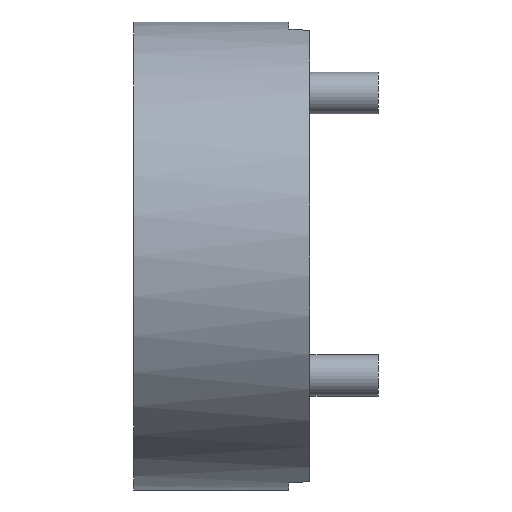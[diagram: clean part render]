
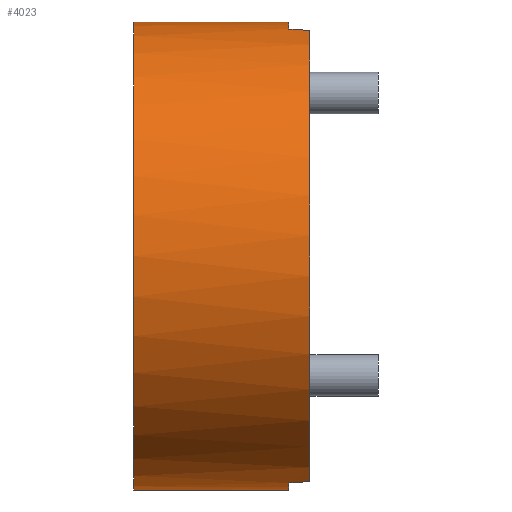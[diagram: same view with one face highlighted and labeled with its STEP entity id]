
A CAD part, left-side view. The second image highlights one B-rep face of the part: STEP entity #4023.
In plain terms, the highlighted cylindrical face has radius 14.287 mm (diameter 28.575 mm), a partial arc.
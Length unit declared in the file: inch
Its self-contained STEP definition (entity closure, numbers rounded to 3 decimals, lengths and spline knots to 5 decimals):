
#309 = CARTESIAN_POINT ( 'NONE',  ( -0.14555, -0.19489, 0.54336 ) ) ;
#510 = CARTESIAN_POINT ( 'NONE',  ( -0.14555, -0.19489, -0.54336 ) ) ;
#726 = ORIENTED_EDGE ( 'NONE', *, *, #7447, .F. ) ;
#1227 = CARTESIAN_POINT ( 'NONE',  ( 0., -0.1615, 0. ) ) ;
#1247 = EDGE_CURVE ( 'NONE', #5007, #6609, #3333, .T. ) ;
#1372 = CARTESIAN_POINT ( 'NONE',  ( -0.15, -0.2115, -0.54213 ) ) ;
#1388 = CARTESIAN_POINT ( 'NONE',  ( -0.14108, -0.17822, -0.54454 ) ) ;
#1587 = DIRECTION ( 'NONE',  ( 0., 0., 1. ) ) ;
#1659 = DIRECTION ( 'NONE',  ( 0., 1., 0. ) ) ;
#1840 = CARTESIAN_POINT ( 'NONE',  ( 0., -0.1615, 0. ) ) ;
#1872 = DIRECTION ( 'NONE',  ( 0., 0., 1. ) ) ;
#1946 = DIRECTION ( 'NONE',  ( 0., 1., 0. ) ) ;
#2090 = EDGE_CURVE ( 'NONE', #5894, #5970, #6423, .T. ) ;
#2516 = VECTOR ( 'NONE', #4188, 39.37008 ) ;
#2606 = CYLINDRICAL_SURFACE ( 'NONE', #3238, 0.5625 ) ;
#2621 = LINE ( 'NONE', #4838, #4078 ) ;
#2630 = ORIENTED_EDGE ( 'NONE', *, *, #4594, .T. ) ;
#2949 = ORIENTED_EDGE ( 'NONE', *, *, #7409, .T. ) ;
#3008 = EDGE_CURVE ( 'NONE', #4036, #5079, #8482, .T. ) ;
#3128 = CARTESIAN_POINT ( 'NONE',  ( -0.14108, -0.17822, 0.54454 ) ) ;
#3238 = AXIS2_PLACEMENT_3D ( 'NONE', #5503, #6852, #6946 ) ;
#3333 = CIRCLE ( 'NONE', #5380, 0.5625 ) ;
#3404 = DIRECTION ( 'NONE',  ( 0., 1., 0. ) ) ;
#3424 = CARTESIAN_POINT ( 'NONE',  ( -0.15, -0.2115, -0.54213 ) ) ;
#3530 = EDGE_CURVE ( 'NONE', #4205, #5007, #6767, .T. ) ;
#3563 = CIRCLE ( 'NONE', #5164, 0.5625 ) ;
#3733 = ORIENTED_EDGE ( 'NONE', *, *, #1247, .T. ) ;
#3795 = CARTESIAN_POINT ( 'NONE',  ( 0., 0.2115, -0.5625 ) ) ;
#3945 = EDGE_LOOP ( 'NONE', ( #726, #6273, #2630, #5618, #5073, #3733, #2949, #5208 ) ) ;
#4023 = ADVANCED_FACE ( 'NONE', ( #4868 ), #2606, .T. ) ;
#4026 = CARTESIAN_POINT ( 'NONE',  ( 0., 0.2115, 0.5625 ) ) ;
#4036 = VERTEX_POINT ( 'NONE', #9063 ) ;
#4078 = VECTOR ( 'NONE', #8344, 39.37008 ) ;
#4188 = DIRECTION ( 'NONE',  ( 0., -1., 0. ) ) ;
#4205 = VERTEX_POINT ( 'NONE', #7258 ) ;
#4594 = EDGE_CURVE ( 'NONE', #5894, #6407, #2621, .T. ) ;
#4610 = DIRECTION ( 'NONE',  ( 0., 0., 1. ) ) ;
#4691 = LINE ( 'NONE', #4780, #2516 ) ;
#4780 = CARTESIAN_POINT ( 'NONE',  ( 0., 0.2115, 0.5625 ) ) ;
#4838 = CARTESIAN_POINT ( 'NONE',  ( 0., 0.2115, -0.5625 ) ) ;
#4868 = FACE_OUTER_BOUND ( 'NONE', #3945, .T. ) ;
#5007 = VERTEX_POINT ( 'NONE', #1372 ) ;
#5073 = ORIENTED_EDGE ( 'NONE', *, *, #3530, .T. ) ;
#5079 = VERTEX_POINT ( 'NONE', #7737 ) ;
#5085 = DIRECTION ( 'NONE',  ( 0., 1., 0. ) ) ;
#5164 = AXIS2_PLACEMENT_3D ( 'NONE', #1227, #3404, #1872 ) ;
#5208 = ORIENTED_EDGE ( 'NONE', *, *, #3008, .T. ) ;
#5380 = AXIS2_PLACEMENT_3D ( 'NONE', #7489, #1946, #5444 ) ;
#5444 = DIRECTION ( 'NONE',  ( 0., 0., 1. ) ) ;
#5503 = CARTESIAN_POINT ( 'NONE',  ( 0., 0.2115, 0. ) ) ;
#5618 = ORIENTED_EDGE ( 'NONE', *, *, #7519, .T. ) ;
#5784 = CARTESIAN_POINT ( 'NONE',  ( 0., 0.2115, 0. ) ) ;
#5874 =( BOUNDED_CURVE ( )  B_SPLINE_CURVE ( 3, ( #6633, #309, #3128, #5934 ),
 .UNSPECIFIED., .F., .F. ) 
 B_SPLINE_CURVE_WITH_KNOTS ( ( 4, 4 ),
 ( 1.30086, 1.32549 ),
 .UNSPECIFIED. ) 
 CURVE ( )  GEOMETRIC_REPRESENTATION_ITEM ( )  RATIONAL_B_SPLINE_CURVE ( ( 1., 1., 1., 1. ) ) 
 REPRESENTATION_ITEM ( '' )  );
#5894 = VERTEX_POINT ( 'NONE', #3795 ) ;
#5934 = CARTESIAN_POINT ( 'NONE',  ( -0.1366, -0.1615, 0.54566 ) ) ;
#5970 = VERTEX_POINT ( 'NONE', #4026 ) ;
#6120 = AXIS2_PLACEMENT_3D ( 'NONE', #1840, #1659, #4610 ) ;
#6273 = ORIENTED_EDGE ( 'NONE', *, *, #2090, .F. ) ;
#6407 = VERTEX_POINT ( 'NONE', #8872 ) ;
#6423 = CIRCLE ( 'NONE', #8037, 0.5625 ) ;
#6609 = VERTEX_POINT ( 'NONE', #8727 ) ;
#6633 = CARTESIAN_POINT ( 'NONE',  ( -0.15, -0.2115, 0.54213 ) ) ;
#6767 =( BOUNDED_CURVE ( )  B_SPLINE_CURVE ( 3, ( #8260, #1388, #510, #3424 ),
 .UNSPECIFIED., .F., .T. ) 
 B_SPLINE_CURVE_WITH_KNOTS ( ( 4, 4 ),
 ( 4.95769, 4.98232 ),
 .UNSPECIFIED. ) 
 CURVE ( )  GEOMETRIC_REPRESENTATION_ITEM ( )  RATIONAL_B_SPLINE_CURVE ( ( 1., 1., 1., 1. ) ) 
 REPRESENTATION_ITEM ( '' )  );
#6852 = DIRECTION ( 'NONE',  ( 0., -1., 0. ) ) ;
#6946 = DIRECTION ( 'NONE',  ( 0., 0., -1. ) ) ;
#7258 = CARTESIAN_POINT ( 'NONE',  ( -0.1366, -0.1615, -0.54566 ) ) ;
#7409 = EDGE_CURVE ( 'NONE', #6609, #4036, #5874, .T. ) ;
#7447 = EDGE_CURVE ( 'NONE', #5970, #5079, #4691, .T. ) ;
#7489 = CARTESIAN_POINT ( 'NONE',  ( 0., -0.2115, 0. ) ) ;
#7519 = EDGE_CURVE ( 'NONE', #6407, #4205, #3563, .T. ) ;
#7737 = CARTESIAN_POINT ( 'NONE',  ( 0., -0.1615, 0.5625 ) ) ;
#8037 = AXIS2_PLACEMENT_3D ( 'NONE', #5784, #5085, #1587 ) ;
#8260 = CARTESIAN_POINT ( 'NONE',  ( -0.1366, -0.1615, -0.54566 ) ) ;
#8344 = DIRECTION ( 'NONE',  ( 0., -1., 0. ) ) ;
#8482 = CIRCLE ( 'NONE', #6120, 0.5625 ) ;
#8727 = CARTESIAN_POINT ( 'NONE',  ( -0.15, -0.2115, 0.54213 ) ) ;
#8872 = CARTESIAN_POINT ( 'NONE',  ( 0., -0.1615, -0.5625 ) ) ;
#9063 = CARTESIAN_POINT ( 'NONE',  ( -0.1366, -0.1615, 0.54566 ) ) ;
